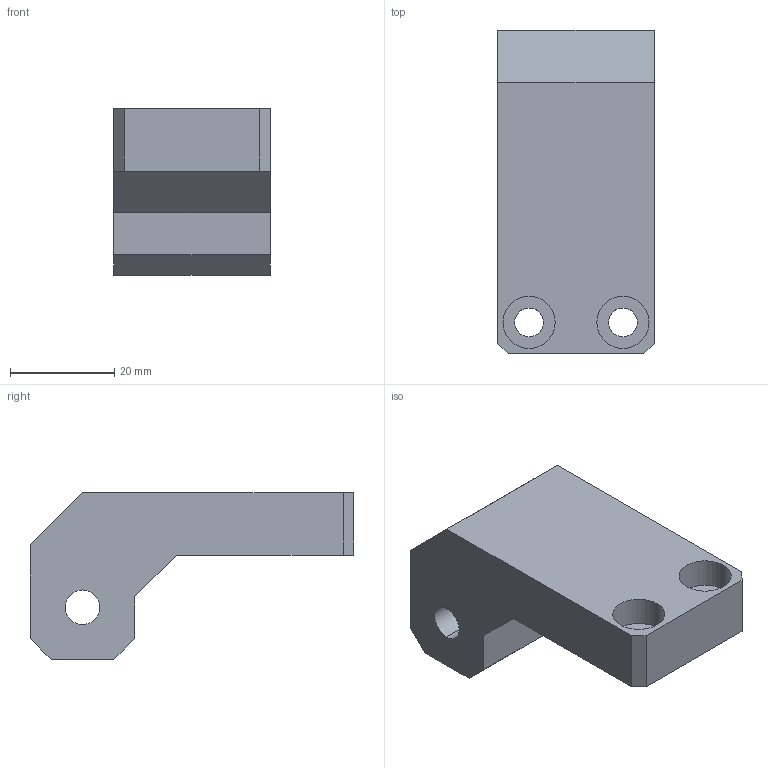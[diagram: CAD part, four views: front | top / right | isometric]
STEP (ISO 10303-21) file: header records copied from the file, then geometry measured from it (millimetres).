
FILE_DESCRIPTION(('CATIA V5 STEP Exchange'),'2;1');
FILE_NAME('D:\姚明阳\1、工装图纸\VDC阀插管工装治具\VDC阀插管工装治具\GZ30.24_V2.stp','2024-11-22T12:06:26+00:00',('none'),('none'),'CATIA Version 5 Release 21 GA (IN-10)','CATIA V5 STEP AP214','none');
FILE_SCHEMA(('AUTOMOTIVE_DESIGN { 1 0 10303 214 1 1 1 1 }'));
Length unit declared in the file: millimetre
Products named in the file (1): GZ30.24_V1限位块
Bounding box: 30 x 62 x 32 mm (x, y, z)
Volume: 31016.3 mm3; surface area: 8404.9 mm2
Topology: 1 solids, 1 shells, 26 faces, 66 edges, 44 vertices
Faces by surface type: plane 16, cylinder 10
Entity records: 871 total; most frequent: CARTESIAN_POINT 132, ORIENTED_EDGE 132, DIRECTION 108, EDGE_CURVE 66, VECTOR 46, LINE 46, VERTEX_POINT 44, AXIS2_PLACEMENT_3D 42
